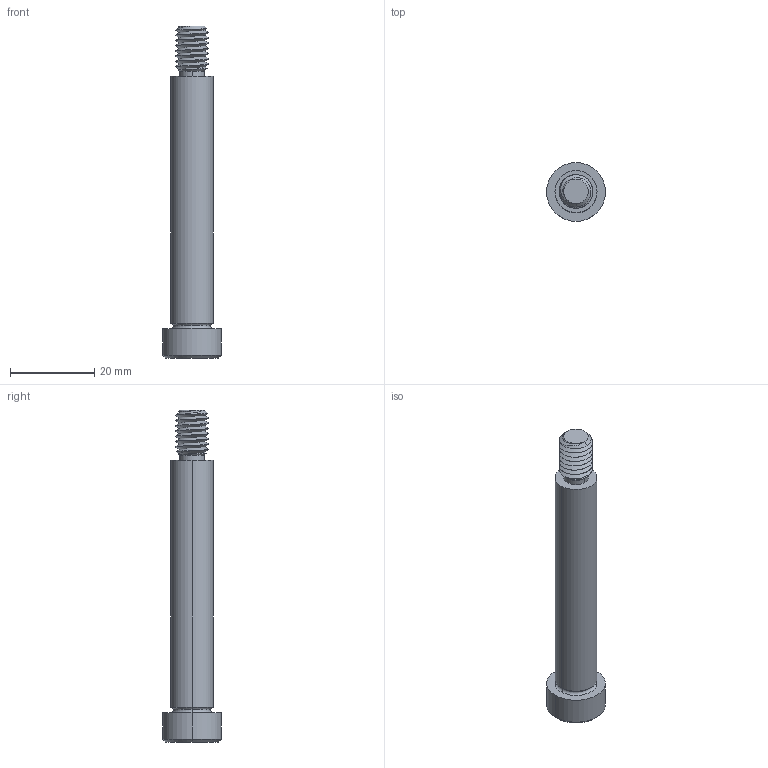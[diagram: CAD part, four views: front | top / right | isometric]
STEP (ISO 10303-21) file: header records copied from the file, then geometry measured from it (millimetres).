
FILE_DESCRIPTION (( 'STEP AP203' ), '1' );
FILE_NAME ('P0130.100-060-B8.step', '2021-11-09T21:57:19', ( '' ), ( '' ), 'SwSTEP 2.0', 'SolidWorks 2019', '' );
FILE_SCHEMA (( 'CONFIG_CONTROL_DESIGN' ));
Length unit declared in the file: millimetre
Products named in the file (1): P0130.100-060-B8
Bounding box: 14 x 14 x 79 mm (x, y, z)
Volume: 6079.9 mm3; surface area: 3062.9 mm2
Topology: 1 solids, 1 shells, 58 faces, 136 edges, 81 vertices
Faces by surface type: cylinder 21, plane 16, cone 15, torus 4, bspline 2
Entity records: 4214 total; most frequent: CARTESIAN_POINT 2911, ORIENTED_EDGE 268, DIRECTION 241, EDGE_CURVE 134, AXIS2_PLACEMENT_3D 97, VERTEX_POINT 81, EDGE_LOOP 61, FACE_OUTER_BOUND 58
